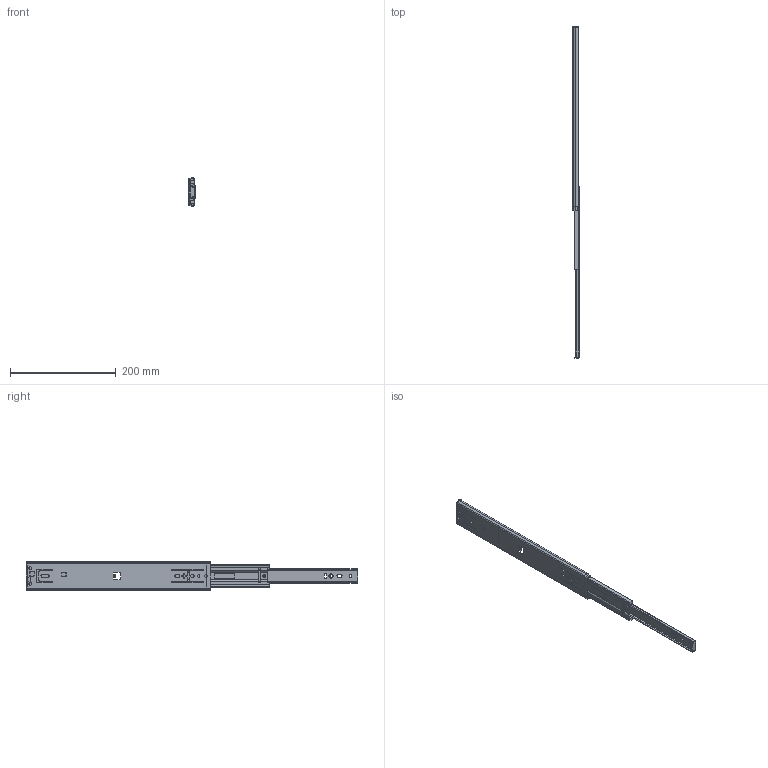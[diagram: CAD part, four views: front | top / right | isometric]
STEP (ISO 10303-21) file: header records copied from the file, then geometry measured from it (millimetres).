
FILE_DESCRIPTION( ( 'Unknown' ), '1' );
FILE_NAME( 'C:/Users/rd30/Desktop/85A01-350-Open.stp', 'Unknown', ( 'Unknown' ), ( 'Unknown' ), 'PSStep 14.0', 'Unknown', ' ' );
FILE_SCHEMA( ( 'AUTOMOTIVE_DESIGN { 1 0 10303 214 1 1 1 1 }' ) );
Length unit declared in the file: millimetre
Products named in the file (8): P10-366-3-1; P10-367-130429; 本體(卡式)20130423-\X2\4FEE6A21571\X0\; Assem1; 85A01P11-02-350; 85A01P21-03-350; 85A01P30-04-B; 85A01P30-04-350
Assembly tree (7 placements, depth 3):
  Assem1
    85A01P11-02-350
    85A01P21-03-350
    85A01P30-04-B
    85A01P30-04-350
    P10-366-3-1
      P10-367-130429
      本體(卡式)20130423-\X2\4FEE6A21571\X0\
Bounding box: 12.6 x 628.4 x 55.37 mm (x, y, z)
Volume: 136320.4 mm3; surface area: 111738.5 mm2
Topology: 6 solids, 6 shells, 529 faces, 1496 edges, 977 vertices
Faces by surface type: plane 264, cylinder 221, torus 24, cone 16, bspline 2, sphere 2
Full cylindrical faces by diameter (mm): 1.4 x1, 3 x1, 3.2 x1, 4.6 x1, 5 x4, 5.1 x1, 5.5 x1, 6.25 x1, 6.4 x1
Entity records: 21862 total; most frequent: CARTESIAN_POINT 3284, DIRECTION 2984, ORIENTED_EDGE 2938, EDGE_CURVE 1469, AXIS2_PLACEMENT_3D 1031, VERTEX_POINT 967, LINE 922, VECTOR 922
